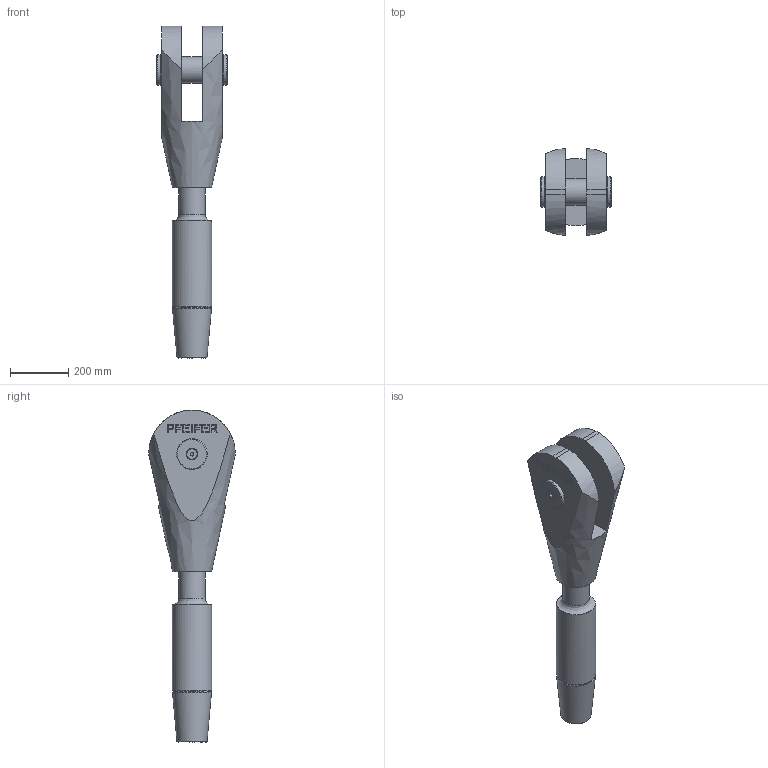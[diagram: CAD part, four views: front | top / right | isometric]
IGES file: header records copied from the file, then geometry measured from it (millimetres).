
Global section: file name: 520-090-GAK-ADA; native system: Autodesk Inventor 2016; preprocessor: unknown; author: Administrator; date: 20200703.131519; units: centimetre
Bounding box: 244 x 298.31 x 1143.73 mm (x, y, z)
Volume: 23010695.4 mm3; surface area: 959012.3 mm2
Topology: 2 solids, 6 shells, 214 faces, 568 edges, 390 vertices
Faces by surface type: bspline 214
